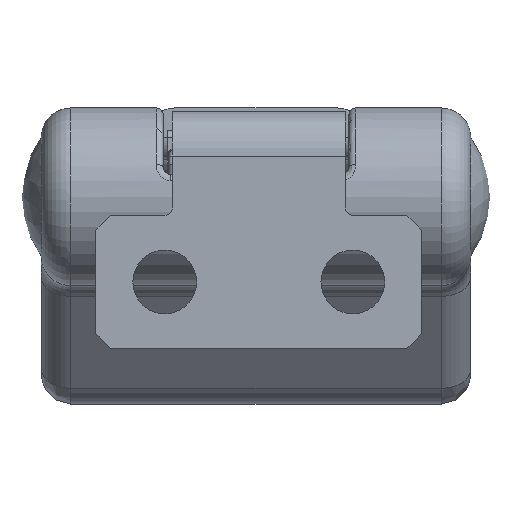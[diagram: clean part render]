
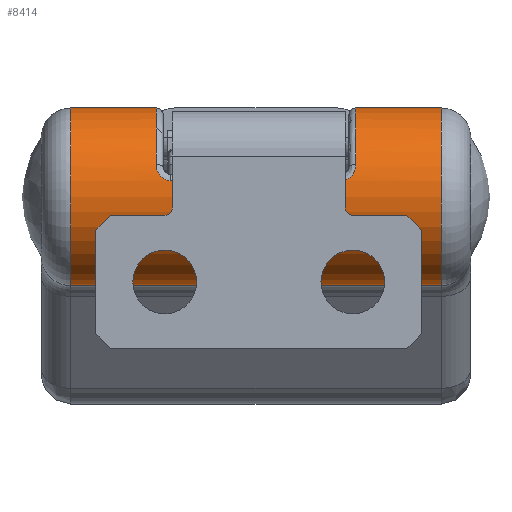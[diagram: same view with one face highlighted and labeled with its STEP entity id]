
A CAD part, left-side view. The second image highlights one B-rep face of the part: STEP entity #8414.
In plain terms, the highlighted cylindrical face has radius 6 mm (diameter 12 mm), a partial arc.
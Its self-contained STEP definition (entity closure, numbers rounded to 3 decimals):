
#400 = CIRCLE ( 'NONE', #2816, 6. ) ;
#429 = DIRECTION ( 'NONE',  ( 0., 1., 0. ) ) ;
#467 = CARTESIAN_POINT ( 'NONE',  ( -5.9, 5.75, -4.909 ) ) ;
#571 = ORIENTED_EDGE ( 'NONE', *, *, #7880, .T. ) ;
#613 = CARTESIAN_POINT ( 'NONE',  ( -5.9, -5.876, -4.909 ) ) ;
#638 = EDGE_CURVE ( 'NONE', #1820, #9595, #1279, .T. ) ;
#651 = CARTESIAN_POINT ( 'NONE',  ( 0., -14.5, -12. ) ) ;
#673 = CARTESIAN_POINT ( 'NONE',  ( -5.874, -6.232, -4.776 ) ) ;
#734 = CARTESIAN_POINT ( 'NONE',  ( -5.831, -6.46, -4.588 ) ) ;
#802 = ORIENTED_EDGE ( 'NONE', *, *, #1794, .F. ) ;
#846 = CARTESIAN_POINT ( 'NONE',  ( -5.9, -5.75, -4.909 ) ) ;
#860 = AXIS2_PLACEMENT_3D ( 'NONE', #10156, #7467, #1059 ) ;
#911 = AXIS2_PLACEMENT_3D ( 'NONE', #4189, #8049, #6230 ) ;
#1034 = CARTESIAN_POINT ( 'NONE',  ( -5.78, 6.603, -4.389 ) ) ;
#1059 = DIRECTION ( 'NONE',  ( 0., 0., 1. ) ) ;
#1070 = VECTOR ( 'NONE', #3069, 1000. ) ;
#1112 = VECTOR ( 'NONE', #10933, 1000. ) ;
#1279 = B_SPLINE_CURVE_WITH_KNOTS ( 'NONE', 3,
 ( #2689, #6532, #10252, #6955, #4175, #11740, #5086, #8706, #2189, #7979, #3076, #5026, #8761, #7011, #1034, #8645, #11547, #7927, #2122, #8826 ),
 .UNSPECIFIED., .F., .F.,
 ( 4, 2, 2, 2, 2, 2, 2, 2, 2, 4 ),
 ( 0., 0.125, 0.25, 0.375, 0.437, 0.5, 0.625, 0.687, 0.75, 1. ),
 .UNSPECIFIED. ) ;
#1349 = EDGE_CURVE ( 'NONE', #6880, #7814, #7205, .T. ) ;
#1392 = FACE_OUTER_BOUND ( 'NONE', #4068, .T. ) ;
#1613 = CARTESIAN_POINT ( 'NONE',  ( -5.849, -6.389, -4.66 ) ) ;
#1655 = VERTEX_POINT ( 'NONE', #9492 ) ;
#1684 = AXIS2_PLACEMENT_3D ( 'NONE', #6430, #4617, #8355 ) ;
#1741 = CARTESIAN_POINT ( 'NONE',  ( -5.697, -6.713, -4.117 ) ) ;
#1794 = EDGE_CURVE ( 'NONE', #8527, #1655, #9972, .T. ) ;
#1820 = VERTEX_POINT ( 'NONE', #467 ) ;
#2122 = CARTESIAN_POINT ( 'NONE',  ( -5.649, 6.75, -3.972 ) ) ;
#2189 = CARTESIAN_POINT ( 'NONE',  ( -5.858, 6.338, -4.701 ) ) ;
#2427 = ORIENTED_EDGE ( 'NONE', *, *, #7859, .T. ) ;
#2442 = CARTESIAN_POINT ( 'NONE',  ( -5.762, -6.637, -4.326 ) ) ;
#2689 = CARTESIAN_POINT ( 'NONE',  ( -5.9, 5.75, -4.909 ) ) ;
#2771 = EDGE_CURVE ( 'NONE', #9595, #10303, #6167, .T. ) ;
#2816 = AXIS2_PLACEMENT_3D ( 'NONE', #5725, #9503, #3037 ) ;
#3037 = DIRECTION ( 'NONE',  ( 0., 0., 1. ) ) ;
#3069 = DIRECTION ( 'NONE',  ( 0., 1., 0. ) ) ;
#3076 = CARTESIAN_POINT ( 'NONE',  ( -5.843, 6.412, -4.637 ) ) ;
#3155 = VECTOR ( 'NONE', #4519, 1000. ) ;
#3225 = CARTESIAN_POINT ( 'NONE',  ( 0., -14.5, 0. ) ) ;
#3393 = ORIENTED_EDGE ( 'NONE', *, *, #9903, .T. ) ;
#3902 = ORIENTED_EDGE ( 'NONE', *, *, #9578, .T. ) ;
#4032 = LINE ( 'NONE', #7790, #1070 ) ;
#4068 = EDGE_LOOP ( 'NONE', ( #10886, #8381, #571, #6914, #5793, #10921, #2427, #3393, #802, #3902 ) ) ;
#4175 = CARTESIAN_POINT ( 'NONE',  ( -5.891, 6.055, -4.859 ) ) ;
#4189 = CARTESIAN_POINT ( 'NONE',  ( 0., 6.75, -6. ) ) ;
#4342 = AXIS2_PLACEMENT_3D ( 'NONE', #11199, #11135, #9116 ) ;
#4519 = DIRECTION ( 'NONE',  ( 0., 1., 0. ) ) ;
#4543 = CARTESIAN_POINT ( 'NONE',  ( -5.895, -5.998, -4.884 ) ) ;
#4602 = CARTESIAN_POINT ( 'NONE',  ( -5.811, -6.527, -4.506 ) ) ;
#4617 = DIRECTION ( 'NONE',  ( 0., -1., 0. ) ) ;
#5026 = CARTESIAN_POINT ( 'NONE',  ( -5.825, 6.485, -4.562 ) ) ;
#5035 = CARTESIAN_POINT ( 'NONE',  ( 0., -6.75, 0. ) ) ;
#5086 = CARTESIAN_POINT ( 'NONE',  ( -5.874, 6.232, -4.776 ) ) ;
#5275 = B_SPLINE_CURVE_WITH_KNOTS ( 'NONE', 3,
 ( #9133, #9307, #8282, #7313, #1741, #9189, #10245, #2442, #6415, #5580, #4602, #11990, #734, #1613, #7373, #673, #8217, #4543, #613, #7196 ),
 .UNSPECIFIED., .F., .F.,
 ( 4, 2, 2, 2, 2, 2, 2, 2, 2, 4 ),
 ( 0., 0.125, 0.188, 0.25, 0.375, 0.438, 0.5, 0.625, 0.75, 1. ),
 .UNSPECIFIED. ) ;
#5318 = CIRCLE ( 'NONE', #1684, 6. ) ;
#5381 = VERTEX_POINT ( 'NONE', #11510 ) ;
#5580 = CARTESIAN_POINT ( 'NONE',  ( -5.804, -6.548, -4.477 ) ) ;
#5725 = CARTESIAN_POINT ( 'NONE',  ( 0., -6.75, -6. ) ) ;
#5793 = ORIENTED_EDGE ( 'NONE', *, *, #638, .T. ) ;
#6167 = CIRCLE ( 'NONE', #911, 6. ) ;
#6230 = DIRECTION ( 'NONE',  ( 0., 0., 1. ) ) ;
#6308 = CIRCLE ( 'NONE', #860, 6. ) ;
#6415 = CARTESIAN_POINT ( 'NONE',  ( -5.78, -6.605, -4.389 ) ) ;
#6430 = CARTESIAN_POINT ( 'NONE',  ( 0., 12.5, -6. ) ) ;
#6532 = CARTESIAN_POINT ( 'NONE',  ( -5.9, 5.813, -4.909 ) ) ;
#6792 = VERTEX_POINT ( 'NONE', #11583 ) ;
#6880 = VERTEX_POINT ( 'NONE', #7101 ) ;
#6914 = ORIENTED_EDGE ( 'NONE', *, *, #9350, .T. ) ;
#6955 = CARTESIAN_POINT ( 'NONE',  ( -5.894, 5.997, -4.877 ) ) ;
#7011 = CARTESIAN_POINT ( 'NONE',  ( -5.788, 6.585, -4.419 ) ) ;
#7101 = CARTESIAN_POINT ( 'NONE',  ( 0., -12.5, 0. ) ) ;
#7196 = CARTESIAN_POINT ( 'NONE',  ( -5.9, -5.75, -4.909 ) ) ;
#7205 = LINE ( 'NONE', #3225, #1112 ) ;
#7313 = CARTESIAN_POINT ( 'NONE',  ( -5.685, -6.721, -4.08 ) ) ;
#7373 = CARTESIAN_POINT ( 'NONE',  ( -5.858, -6.339, -4.702 ) ) ;
#7467 = DIRECTION ( 'NONE',  ( 0., 1., 0. ) ) ;
#7790 = CARTESIAN_POINT ( 'NONE',  ( -5.9, -14.5, -4.909 ) ) ;
#7814 = VERTEX_POINT ( 'NONE', #5035 ) ;
#7859 = EDGE_CURVE ( 'NONE', #10303, #6792, #8902, .T. ) ;
#7880 = EDGE_CURVE ( 'NONE', #5381, #10728, #5275, .T. ) ;
#7927 = CARTESIAN_POINT ( 'NONE',  ( -5.7, 6.721, -4.119 ) ) ;
#7979 = CARTESIAN_POINT ( 'NONE',  ( -5.848, 6.388, -4.659 ) ) ;
#8049 = DIRECTION ( 'NONE',  ( 0., 1., 0. ) ) ;
#8217 = CARTESIAN_POINT ( 'NONE',  ( -5.881, -6.174, -4.809 ) ) ;
#8282 = CARTESIAN_POINT ( 'NONE',  ( -5.647, -6.743, -3.97 ) ) ;
#8355 = DIRECTION ( 'NONE',  ( 0., 0., 1. ) ) ;
#8381 = ORIENTED_EDGE ( 'NONE', *, *, #10353, .T. ) ;
#8414 = ADVANCED_FACE ( 'NONE', ( #1392 ), #10052, .T. ) ;
#8527 = VERTEX_POINT ( 'NONE', #10468 ) ;
#8645 = CARTESIAN_POINT ( 'NONE',  ( -5.762, 6.636, -4.326 ) ) ;
#8706 = CARTESIAN_POINT ( 'NONE',  ( -5.862, 6.313, -4.721 ) ) ;
#8761 = CARTESIAN_POINT ( 'NONE',  ( -5.812, 6.528, -4.508 ) ) ;
#8826 = CARTESIAN_POINT ( 'NONE',  ( -5.589, 6.75, -3.818 ) ) ;
#8902 = LINE ( 'NONE', #8960, #9399 ) ;
#8960 = CARTESIAN_POINT ( 'NONE',  ( 0., -14.5, 0. ) ) ;
#9116 = DIRECTION ( 'NONE',  ( 0., 0., 1. ) ) ;
#9133 = CARTESIAN_POINT ( 'NONE',  ( -5.589, -6.75, -3.818 ) ) ;
#9189 = CARTESIAN_POINT ( 'NONE',  ( -5.72, -6.691, -4.189 ) ) ;
#9307 = CARTESIAN_POINT ( 'NONE',  ( -5.619, -6.75, -3.895 ) ) ;
#9350 = EDGE_CURVE ( 'NONE', #10728, #1820, #4032, .T. ) ;
#9399 = VECTOR ( 'NONE', #429, 1000. ) ;
#9492 = CARTESIAN_POINT ( 'NONE',  ( 0., 12.5, -12. ) ) ;
#9503 = DIRECTION ( 'NONE',  ( 0., -1., 0. ) ) ;
#9562 = CARTESIAN_POINT ( 'NONE',  ( 0., 6.75, 0. ) ) ;
#9578 = EDGE_CURVE ( 'NONE', #8527, #6880, #6308, .T. ) ;
#9595 = VERTEX_POINT ( 'NONE', #12087 ) ;
#9903 = EDGE_CURVE ( 'NONE', #6792, #1655, #5318, .T. ) ;
#9972 = LINE ( 'NONE', #651, #3155 ) ;
#10052 = CYLINDRICAL_SURFACE ( 'NONE', #4342, 6. ) ;
#10156 = CARTESIAN_POINT ( 'NONE',  ( 0., -12.5, -6. ) ) ;
#10245 = CARTESIAN_POINT ( 'NONE',  ( -5.732, -6.678, -4.226 ) ) ;
#10252 = CARTESIAN_POINT ( 'NONE',  ( -5.899, 5.875, -4.903 ) ) ;
#10303 = VERTEX_POINT ( 'NONE', #9562 ) ;
#10353 = EDGE_CURVE ( 'NONE', #7814, #5381, #400, .T. ) ;
#10468 = CARTESIAN_POINT ( 'NONE',  ( 0., -12.5, -12. ) ) ;
#10728 = VERTEX_POINT ( 'NONE', #846 ) ;
#10886 = ORIENTED_EDGE ( 'NONE', *, *, #1349, .T. ) ;
#10921 = ORIENTED_EDGE ( 'NONE', *, *, #2771, .T. ) ;
#10933 = DIRECTION ( 'NONE',  ( 0., 1., 0. ) ) ;
#11135 = DIRECTION ( 'NONE',  ( 0., 1., 0. ) ) ;
#11199 = CARTESIAN_POINT ( 'NONE',  ( 0., -14.5, -6. ) ) ;
#11510 = CARTESIAN_POINT ( 'NONE',  ( -5.589, -6.75, -3.818 ) ) ;
#11547 = CARTESIAN_POINT ( 'NONE',  ( -5.753, 6.65, -4.295 ) ) ;
#11583 = CARTESIAN_POINT ( 'NONE',  ( 0., 12.5, 0. ) ) ;
#11740 = CARTESIAN_POINT ( 'NONE',  ( -5.88, 6.176, -4.808 ) ) ;
#11990 = CARTESIAN_POINT ( 'NONE',  ( -5.825, -6.484, -4.56 ) ) ;
#12087 = CARTESIAN_POINT ( 'NONE',  ( -5.589, 6.75, -3.818 ) ) ;
